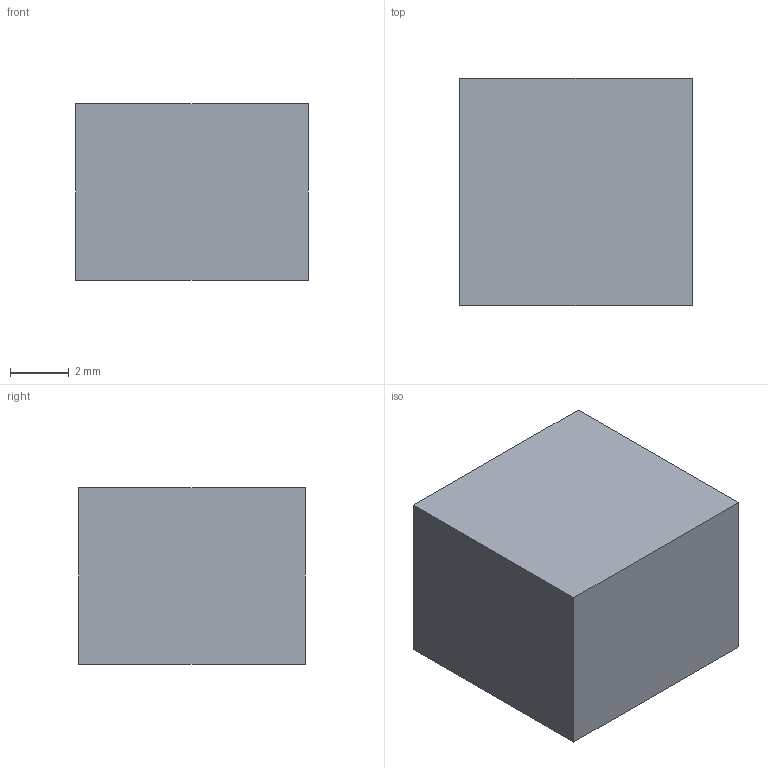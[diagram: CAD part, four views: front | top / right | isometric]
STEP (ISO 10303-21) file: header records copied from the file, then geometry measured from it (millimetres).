
FILE_DESCRIPTION(('tredder 3D model'),'2;1');
FILE_NAME('jst_ph_s2b_ph_sm4_tb.step','2026-01-01T00:00:00',(''),(''),'tredder step_writer','tredder','');
FILE_SCHEMA(('AUTOMOTIVE_DESIGN { 1 0 10303 214 1 1 1 1 }'));
Length unit declared in the file: millimetre
Products named in the file (1): jst_ph_s2b_ph_sm4_tb
Bounding box: 7.9 x 7.7 x 6 mm (x, y, z)
Volume: 365 mm3; surface area: 308.9 mm2
Topology: 1 solids, 1 shells, 6 faces, 12 edges, 8 vertices
Faces by surface type: plane 6
Entity records: 174 total; most frequent: CARTESIAN_POINT 27, DIRECTION 26, ORIENTED_EDGE 24, VECTOR 12, LINE 12, EDGE_CURVE 12, VERTEX_POINT 8, AXIS2_PLACEMENT_3D 7
